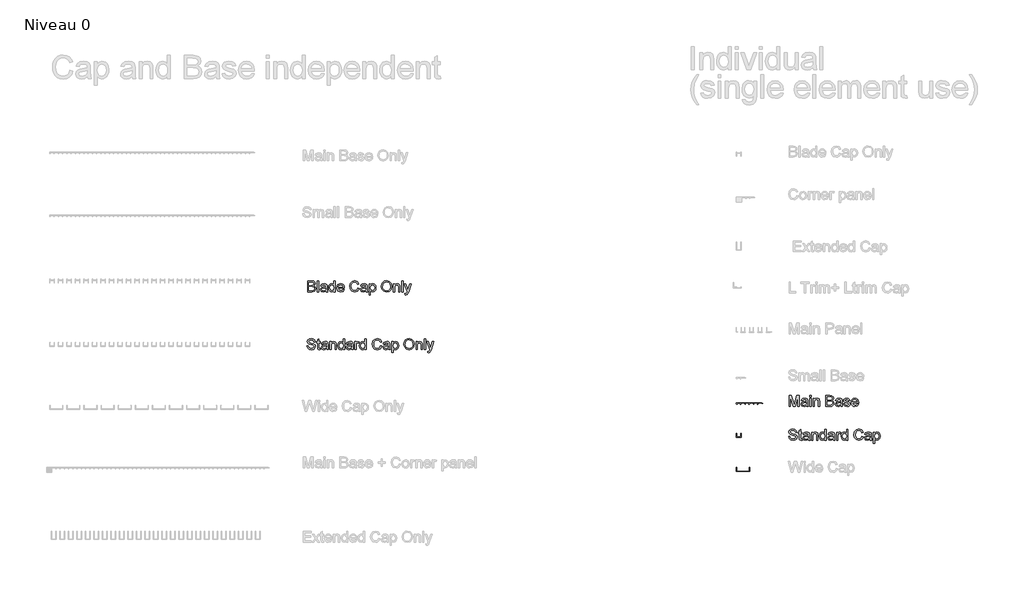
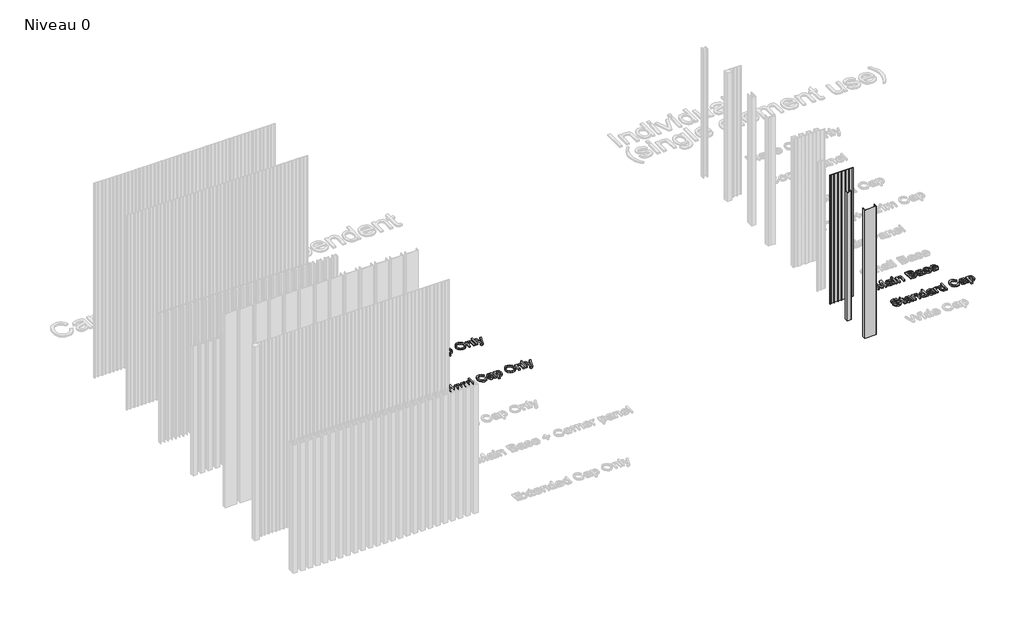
# One storey, part 22 of 25: 7 proxies.
"""IFC4 building model written with IfcOpenShell, lengths in millimetres."""

from ifc_helpers import new_model, si_unit, origin, origin_with_axes, place, context, project, spatial, polyline, outline, extrude, transform, mapped, element, save
from components import a_gen_main_base_a_gen_main_base_1f58835e, a_gen_standard_cap_a_gen_standard_cap_49eb2330, a_gen_wide_cap_a_gen_wide_cap_dd60f3a1

model = new_model("IFC4")

# Units and contexts
model_context = context("Model", 3, world=origin())
ifc_project = project(units=[si_unit("LENGTHUNIT", "METRE", prefix="MILLI")], contexts=[model_context])

# Site, building, storey
site = spatial("IfcSite", under=ifc_project)
building = spatial("IfcBuilding", under=site)
storey = spatial("IfcBuildingStorey", under=building, Name="Niveau 0", Elevation=0.0)

# Proxies
placement = place(None, origin())
element("IfcBuildingElementProxy", 1, Name="70mm Arial", ObjectType="70mm Arial", at=placement, inside=storey, context=model_context, shape_type="SweptSolid", body=[
    extrude(outline(polyline([(8435.9915966, 3665.7930805), (8435.9915966, 3736.1124976), (8462.8249094, 3736.1124976), (8475.9668805, 3734.0437746), (8483.7267381, 3727.6830949), (8486.5336777, 3718.6871538), (8484.1731015, 3710.4723488), (8477.0398697, 3704.2490118), (8485.7010381, 3697.6909021), (8488.7311595, 3686.7549966), (8486.6624364, 3677.3041082), (8481.5378402, 3670.5743202), (8473.8895735, 3667.0034123), (8462.6188954, 3665.7930805), (8435.9915966, 3665.7930805)]), holes=[polyline([(8444.7815238, 3707.5452344), (8460.8334415, 3707.5452344), (8470.2070747, 3708.3006188), (8475.8467057, 3711.5539219), (8477.7437505, 3717.279392), (8475.9754644, 3723.0134461), (8470.9109556, 3726.4040918), (8459.6145258, 3727.3225705), (8444.7815238, 3727.3225705), (8444.7815238, 3707.5452344)]), polyline([(8444.7815238, 3674.5830077), (8462.8077415, 3674.5830077), (8469.3315156, 3674.9263642), (8474.8509718, 3676.8405768), (8478.5077188, 3680.7462574), (8479.9412323, 3686.6691575), (8478.2587853, 3693.5019524), (8472.8080004, 3697.5793112), (8461.9493502, 3698.7553073), (8444.7815238, 3698.7553073), (8444.7815238, 3674.5830077)])]), origin_with_axes(), (0.0, 0.0, 1.0), 10.0),
    extrude(outline(polyline([(8499.7185684, 3665.7930805), (8499.7185684, 3736.1124976), (8508.5084955, 3736.1124976), (8508.5084955, 3665.7930805), (8499.7185684, 3665.7930805)])), origin_with_axes(), (0.0, 0.0, 1.0), 10.0),
    extrude(outline(polyline([(8554.655613, 3672.3855259), (8546.1317872, 3666.4282901), (8536.7152344, 3664.6943396), (8523.9509554, 3668.8661215), (8519.4959045, 3679.5273417), (8521.1783514, 3686.4803114), (8525.5990668, 3691.5276524), (8531.7537325, 3694.4118472), (8539.3590796, 3695.7337698), (8554.6041095, 3698.7553073), (8554.655613, 3700.7124395), (8552.2349495, 3707.2018779), (8542.5179597, 3709.7427162), (8533.6250256, 3708.0516853), (8529.3845725, 3702.05153), (8520.5946453, 3703.1502709), (8524.3973189, 3711.7341841), (8532.0541695, 3716.7643572), (8543.6510363, 3718.5326434), (8554.3036726, 3716.9703712), (8560.3209957, 3713.0475228), (8563.0163445, 3707.0817031), (8563.4455401, 3699.3905169), (8563.4455401, 3688.4546114), (8563.8919036, 3673.1838298), (8565.6430219, 3665.7930805), (8556.8530948, 3665.7930805), (8554.655613, 3672.3855259)]), holes=[polyline([(8554.655613, 3689.9653802), (8540.4749884, 3687.2700314), (8532.9125608, 3685.8451018), (8529.4875794, 3683.5274452), (8528.2858316, 3680.1453834), (8530.9039251, 3675.3898955), (8538.5865275, 3673.4842668), (8547.4794616, 3675.5873255), (8553.2135156, 3680.6775861), (8554.6041095, 3687.4760453), (8554.655613, 3689.9653802)])]), origin_with_axes(), (0.0, 0.0, 1.0), 10.0),
    extrude(outline(polyline([(8607.3951758, 3665.7930805), (8607.3951758, 3674.0851407), (8601.5795746, 3667.0420399), (8593.5407399, 3664.6943396), (8582.6563379, 3668.0935693), (8574.9651517, 3677.5787934), (8572.2354673, 3691.561988), (8574.7505539, 3705.5537666), (8582.2872297, 3715.1849172), (8593.5064042, 3718.5326434), (8601.6096183, 3716.1377316), (8607.3951758, 3709.9143945), (8607.3951758, 3736.1124976), (8616.185103, 3736.1124976), (8616.185103, 3665.7930805), (8607.3951758, 3665.7930805)]), holes=[polyline([(8581.0253944, 3691.5963237), (8584.9911623, 3677.9908212), (8594.3476277, 3673.4842668), (8603.5925023, 3677.7848073), (8607.3951758, 3690.9267784), (8603.523831, 3705.1932422), (8593.9871034, 3709.7427162), (8584.7336449, 3705.3735044), (8581.0253944, 3691.5963237)])]), origin_with_axes(), (0.0, 0.0, 1.0), 10.0),
    extrude(outline(polyline([(8665.5254362, 3681.175453), (8674.143685, 3680.0767121), (8666.0833905, 3668.7287789), (8651.0701263, 3664.6943396), (8640.7565546, 3666.434728), (8632.8207268, 3671.6558933), (8627.7605099, 3680.0187707), (8626.073771, 3691.1842958), (8627.7776778, 3702.7253672), (8632.8893981, 3711.3564919), (8640.717927, 3716.7386055), (8650.5722593, 3718.5326434), (8660.1197168, 3716.7428975), (8667.7486697, 3711.3736597), (8672.7509451, 3702.7597028), (8674.4183703, 3691.2357993), (8674.3668668, 3688.8666393), (8634.8636981, 3688.8666393), (8639.919623, 3677.4500347), (8651.2418046, 3673.4842668), (8659.8600534, 3675.3212242), (8665.5254362, 3681.175453)]), holes=[polyline([(8634.8636981, 3697.6565664), (8665.6284431, 3697.6565664), (8662.1090387, 3705.6224379), (8650.5379237, 3709.7427162), (8639.7136091, 3706.4550775), (8634.8636981, 3697.6565664)])]), origin_with_axes(), (0.0, 0.0, 1.0), 10.0),
    extrude(outline(polyline([(8761.2189007, 3690.7894358), (8770.0088279, 3688.5232827), (8765.9529289, 3678.2805283), (8759.5879572, 3670.7975019), (8751.2272258, 3666.2201302), (8741.1840473, 3664.6943396), (8722.8917282, 3669.312485), (8712.1618367, 3682.6862218), (8708.4793379, 3701.4849917), (8712.6425358, 3720.5927825), (8724.4797522, 3732.9793693), (8741.3728934, 3737.2112385), (8758.9784994, 3731.7347019), (8768.910087, 3716.3179938), (8760.1201599, 3714.2235189), (8752.9096728, 3725.0306657), (8741.0295369, 3728.4213114), (8727.2781079, 3724.6615574), (8719.5096664, 3714.5668755), (8717.2692651, 3701.5021595), (8719.9216942, 3686.3601366), (8728.1794188, 3676.6860664), (8740.3084881, 3673.4842668), (8753.7594802, 3677.8448947), (8761.2189007, 3690.7894358)])), origin_with_axes(), (0.0, 0.0, 1.0), 10.0),
    extrude(outline(polyline([(8813.9584636, 3672.3855259), (8805.4346377, 3666.4282901), (8796.0180849, 3664.6943396), (8783.253806, 3668.8661215), (8778.798755, 3679.5273417), (8780.481202, 3686.4803114), (8784.9019173, 3691.5276524), (8791.0565831, 3694.4118472), (8798.6619302, 3695.7337698), (8813.9069601, 3698.7553073), (8813.9584636, 3700.7124395), (8811.5378, 3707.2018779), (8801.8208103, 3709.7427162), (8792.9278762, 3708.0516853), (8788.6874231, 3702.05153), (8779.8974959, 3703.1502709), (8783.7001695, 3711.7341841), (8791.3570201, 3716.7643572), (8802.9538868, 3718.5326434), (8813.6065231, 3716.9703712), (8819.6238463, 3713.0475228), (8822.3191951, 3707.0817031), (8822.7483907, 3699.3905169), (8822.7483907, 3688.4546114), (8823.1947542, 3673.1838298), (8824.9458725, 3665.7930805), (8816.1559454, 3665.7930805), (8813.9584636, 3672.3855259)]), holes=[polyline([(8813.9584636, 3689.9653802), (8799.7778389, 3687.2700314), (8792.2154114, 3685.8451018), (8788.79043, 3683.5274452), (8787.5886822, 3680.1453834), (8790.2067757, 3675.3898955), (8797.889378, 3673.4842668), (8806.7823121, 3675.5873255), (8812.5163662, 3680.6775861), (8813.9069601, 3687.4760453), (8813.9584636, 3689.9653802)])]), origin_with_axes(), (0.0, 0.0, 1.0), 10.0),
    extrude(outline(polyline([(8834.8345405, 3646.0157445), (8834.8345405, 3717.4339025), (8843.6244677, 3717.4339025), (8843.6244677, 3708.8156536), (8849.7018782, 3716.1033959), (8857.9080993, 3718.5326434), (8869.0500186, 3715.1334137), (8876.329177, 3705.5537666), (8878.7841762, 3692.0083515), (8876.0115722, 3677.7676395), (8867.9598616, 3668.0678175), (8856.843694, 3664.6943396), (8849.1954273, 3666.9519088), (8843.6244677, 3672.6602111), (8843.6244677, 3646.0157445), (8834.8345405, 3646.0157445)]), holes=[polyline([(8843.6244677, 3691.2014637), (8847.4271412, 3677.810559), (8856.6548479, 3673.4842668), (8866.0714007, 3677.9650695), (8869.9942491, 3691.8538411), (8866.1658238, 3705.2790813), (8857.0153723, 3709.7427162), (8847.6846586, 3704.9958122), (8843.6244677, 3691.2014637)])]), origin_with_axes(), (0.0, 0.0, 1.0), 10.0),
    extrude(outline(polyline([(8913.9438848, 3700.0257265), (8916.2872931, 3715.5754853), (8923.317518, 3727.3397383), (8934.0517015, 3734.7433635), (8947.5069855, 3737.2112385), (8965.0010006, 3732.5759254), (8976.8811365, 3719.6485521), (8980.9670792, 3700.8326143), (8976.6665387, 3681.7591591), (8964.4773819, 3669.0206319), (8947.455482, 3664.6943396), (8929.7726208, 3669.4755793), (8917.9611562, 3682.5231274), (8913.9438848, 3700.0257265)]), holes=[polyline([(8922.7338119, 3699.9398873), (8924.4913681, 3688.9396025), (8929.7640368, 3680.5574113), (8937.6891347, 3675.2525529), (8947.4039785, 3673.4842668), (8957.2604569, 3675.2697207), (8965.1984306, 3680.6260826), (8970.4324717, 3689.2657912), (8972.1771521, 3700.9012856), (8969.1899503, 3715.408099), (8960.4601105, 3725.0134978), (8947.5584889, 3728.4213114), (8938.1033085, 3726.779638), (8930.0644738, 3721.8546178), (8924.5664774, 3713.0925884), (8922.7338119, 3699.9398873)])]), origin_with_axes(), (0.0, 0.0, 1.0), 10.0),
    extrude(outline(polyline([(8991.9544881, 3665.7930805), (8991.9544881, 3717.4339025), (9000.7444153, 3717.4339025), (9000.7444153, 3710.2234154), (9007.4656193, 3716.4553364), (9016.6418225, 3718.5326434), (9024.9424666, 3716.8587803), (9030.6078494, 3712.4638167), (9033.2431107, 3706.0001301), (9033.706642, 3697.502056), (9033.706642, 3665.7930805), (9024.9167149, 3665.7930805), (9024.9167149, 3696.3174759), (9023.9038131, 3704.0945013), (9020.3243213, 3708.2061958), (9014.2898303, 3709.7427162), (9004.7531027, 3706.2919831), (9000.7444153, 3693.1929315), (9000.7444153, 3665.7930805), (8991.9544881, 3665.7930805)])), origin_with_axes(), (0.0, 0.0, 1.0), 10.0),
    extrude(outline(polyline([(9045.7927918, 3665.7930805), (9045.7927918, 3736.1124976), (9054.582719, 3736.1124976), (9054.582719, 3665.7930805), (9045.7927918, 3665.7930805)])), origin_with_axes(), (0.0, 0.0, 1.0), 10.0),
    extrude(outline(polyline([(9067.7676097, 3646.0157445), (9066.6688688, 3654.4794829), (9071.1325037, 3653.7069307), (9075.3042855, 3654.6769129), (9077.8622916, 3657.3808456), (9080.2657873, 3663.8531161), (9080.9525004, 3665.9819266), (9062.2739052, 3717.4339025), (9071.5445315, 3717.4339025), (9081.4503674, 3688.7636323), (9084.9011005, 3677.2955242), (9088.3518336, 3687.4245419), (9098.5323547, 3717.4339025), (9107.7343096, 3717.4339025), (9089.7595954, 3664.556997), (9085.0899466, 3653.088889), (9079.9911021, 3646.8913036), (9073.1411394, 3644.9170036), (9067.7676097, 3646.0157445)])), origin_with_axes(), (0.0, 0.0, 1.0), 10.0),
])
element("IfcBuildingElementProxy", 2, Name="70mm Arial", ObjectType="70mm Arial", at=placement, inside=storey, context=model_context, shape_type="SweptSolid", body=[
    extrude(outline(polyline([(8432.695374, 3315.4461886), (8441.4853011, 3315.4461886), (8444.3179925, 3306.6476776), (8451.2366265, 3301.0853018), (8461.777672, 3298.9650753), (8470.9624591, 3300.570267), (8476.8939431, 3304.9823984), (8478.8424914, 3310.8795468), (8477.3832262, 3316.3646674), (8471.4088226, 3320.356187), (8458.610208, 3323.7124971), (8444.8330273, 3328.0473732), (8437.3564388, 3334.5883151), (8434.8928557, 3343.3267388), (8437.9401449, 3353.2754942), (8446.8416629, 3360.2971352), (8459.8720432, 3362.692047), (8473.7779826, 3360.1855443), (8483.0486089, 3352.8205468), (8486.5336777, 3341.8159701), (8477.7437505, 3341.8159701), (8472.7650809, 3350.8462468), (8460.2153997, 3353.9021199), (8447.631383, 3350.8805824), (8443.6827829, 3343.5842562), (8446.4811386, 3337.4896778), (8460.8334415, 3332.5796794), (8476.3874923, 3328.167548), (8484.8941503, 3321.0429001), (8487.6324186, 3311.1027285), (8484.4821224, 3300.5874349), (8475.4175101, 3292.9134164), (8462.1210285, 3290.1751481), (8446.4210512, 3293.1280143), (8436.4894636, 3302.0209484), (8432.695374, 3315.4461886)])), origin_with_axes(), (0.0, 0.0, 1.0), 10.0),
    extrude(outline(polyline([(8518.3971636, 3298.6045509), (8519.4959045, 3291.0163716), (8512.9206269, 3290.1751481), (8505.5556294, 3291.6344134), (8501.8817145, 3295.4628387), (8500.8173093, 3305.4373458), (8500.8173093, 3334.1247838), (8494.2248639, 3334.1247838), (8494.2248639, 3342.9147109), (8500.8173093, 3342.9147109), (8500.8173093, 3355.4643921), (8509.6072364, 3360.6319078), (8509.6072364, 3342.9147109), (8518.3971636, 3342.9147109), (8518.3971636, 3334.1247838), (8509.6072364, 3334.1247838), (8509.6072364, 3305.6948632), (8510.0707677, 3301.162557), (8511.5729525, 3299.5573653), (8514.5687383, 3298.9650753), (8518.3971636, 3298.6045509)])), origin_with_axes(), (0.0, 0.0, 1.0), 10.0),
    extrude(outline(polyline([(8560.1493175, 3297.8663344), (8551.6254916, 3291.9090986), (8542.2089388, 3290.1751481), (8529.4446599, 3294.3469299), (8524.9896089, 3305.0081502), (8526.6720559, 3311.9611199), (8531.0927712, 3317.0084608), (8537.247437, 3319.8926557), (8544.8527841, 3321.2145783), (8560.097814, 3324.2361158), (8560.1493175, 3326.193248), (8557.7286539, 3332.6826864), (8548.0116642, 3335.2235247), (8539.1187301, 3333.5324938), (8534.8782769, 3327.5323385), (8526.0883498, 3328.6310793), (8529.8910234, 3337.2149926), (8537.547874, 3342.2451657), (8549.1447407, 3344.0134518), (8559.797377, 3342.4511796), (8565.8147002, 3338.5283313), (8568.5100489, 3332.5625116), (8568.9392446, 3324.8713254), (8568.9392446, 3313.9354199), (8569.3856081, 3298.6646383), (8571.1367264, 3291.273889), (8562.3467992, 3291.273889), (8560.1493175, 3297.8663344)]), holes=[polyline([(8560.1493175, 3315.4461886), (8545.9686928, 3312.7508399), (8538.4062653, 3311.3259103), (8534.9812839, 3309.0082537), (8533.7795361, 3305.6261919), (8536.3976296, 3300.870704), (8544.0802319, 3298.9650753), (8552.973166, 3301.068134), (8558.70722, 3306.1583945), (8560.097814, 3312.9568538), (8560.1493175, 3315.4461886)])]), origin_with_axes(), (0.0, 0.0, 1.0), 10.0),
    extrude(outline(polyline([(8581.0253944, 3291.273889), (8581.0253944, 3342.9147109), (8589.8153216, 3342.9147109), (8589.8153216, 3335.7042238), (8596.5365256, 3341.9361448), (8605.7127288, 3344.0134518), (8614.0133729, 3342.3395888), (8619.6787557, 3337.9446252), (8622.314017, 3331.4809385), (8622.7775483, 3322.9828644), (8622.7775483, 3291.273889), (8613.9876212, 3291.273889), (8613.9876212, 3321.7982844), (8612.9747194, 3329.5753098), (8609.3952276, 3333.6870042), (8603.3607366, 3335.2235247), (8593.824009, 3331.7727916), (8589.8153216, 3318.67374), (8589.8153216, 3291.273889), (8581.0253944, 3291.273889)])), origin_with_axes(), (0.0, 0.0, 1.0), 10.0),
    extrude(outline(polyline([(8666.727184, 3291.273889), (8666.727184, 3299.5659492), (8660.9115828, 3292.5228484), (8652.8727481, 3290.1751481), (8641.9883461, 3293.5743777), (8634.2971599, 3303.0596019), (8631.5674755, 3317.0427965), (8634.082562, 3331.034575), (8641.6192378, 3340.6657257), (8652.8384124, 3344.0134518), (8660.9416265, 3341.61854), (8666.727184, 3335.395203), (8666.727184, 3361.5933061), (8675.5171112, 3361.5933061), (8675.5171112, 3291.273889), (8666.727184, 3291.273889)]), holes=[polyline([(8640.3574026, 3317.0771321), (8644.3231705, 3303.4716297), (8653.6796359, 3298.9650753), (8662.9245105, 3303.2656158), (8666.727184, 3316.4075869), (8662.8558392, 3330.6740507), (8653.3191116, 3335.2235247), (8644.0656531, 3330.8543129), (8640.3574026, 3317.0771321)])]), origin_with_axes(), (0.0, 0.0, 1.0), 10.0),
    extrude(outline(polyline([(8721.6642286, 3297.8663344), (8713.1404028, 3291.9090986), (8703.72385, 3290.1751481), (8690.959571, 3294.3469299), (8686.5045201, 3305.0081502), (8688.1869671, 3311.9611199), (8692.6076824, 3317.0084608), (8698.7623482, 3319.8926557), (8706.3676953, 3321.2145783), (8721.6127251, 3324.2361158), (8721.6642286, 3326.193248), (8719.2435651, 3332.6826864), (8709.5265753, 3335.2235247), (8700.6336412, 3333.5324938), (8696.3931881, 3327.5323385), (8687.603261, 3328.6310793), (8691.4059345, 3337.2149926), (8699.0627851, 3342.2451657), (8710.6596519, 3344.0134518), (8721.3122882, 3342.4511796), (8727.3296114, 3338.5283313), (8730.0249601, 3332.5625116), (8730.4541558, 3324.8713254), (8730.4541558, 3313.9354199), (8730.9005193, 3298.6646383), (8732.6516375, 3291.273889), (8723.8617104, 3291.273889), (8721.6642286, 3297.8663344)]), holes=[polyline([(8721.6642286, 3315.4461886), (8707.483604, 3312.7508399), (8699.9211764, 3311.3259103), (8696.4961951, 3309.0082537), (8695.2944472, 3305.6261919), (8697.9125407, 3300.870704), (8705.5951431, 3298.9650753), (8714.4880772, 3301.068134), (8720.2221312, 3306.1583945), (8721.6127251, 3312.9568538), (8721.6642286, 3315.4461886)])]), origin_with_axes(), (0.0, 0.0, 1.0), 10.0),
    extrude(outline(polyline([(8742.5403056, 3291.273889), (8742.5403056, 3342.9147109), (8750.2314918, 3342.9147109), (8750.2314918, 3335.2750282), (8755.6908606, 3342.313837), (8761.1845651, 3344.0134518), (8770.0088279, 3341.3009353), (8767.0731296, 3333.4209029), (8760.892712, 3335.2235247), (8755.9226263, 3333.4895742), (8752.7551623, 3328.6825828), (8751.3302327, 3318.4162226), (8751.3302327, 3291.273889), (8742.5403056, 3291.273889)])), origin_with_axes(), (0.0, 0.0, 1.0), 10.0),
    extrude(outline(polyline([(8807.3660182, 3291.273889), (8807.3660182, 3299.5659492), (8801.550417, 3292.5228484), (8793.5115823, 3290.1751481), (8782.6271803, 3293.5743777), (8774.9359941, 3303.0596019), (8772.2063097, 3317.0427965), (8774.7213962, 3331.034575), (8782.2580721, 3340.6657257), (8793.4772466, 3344.0134518), (8801.5804607, 3341.61854), (8807.3660182, 3335.395203), (8807.3660182, 3361.5933061), (8816.1559454, 3361.5933061), (8816.1559454, 3291.273889), (8807.3660182, 3291.273889)]), holes=[polyline([(8780.9962368, 3317.0771321), (8784.9620047, 3303.4716297), (8794.3184701, 3298.9650753), (8803.5633447, 3303.2656158), (8807.3660182, 3316.4075869), (8803.4946734, 3330.6740507), (8793.9579458, 3335.2235247), (8784.7044873, 3330.8543129), (8780.9962368, 3317.0771321)])]), origin_with_axes(), (0.0, 0.0, 1.0), 10.0),
    extrude(outline(polyline([(8907.3514394, 3316.2702443), (8916.1413666, 3314.0040912), (8912.0854676, 3303.7613368), (8905.7204959, 3296.2783104), (8897.3597644, 3291.7009387), (8887.316586, 3290.1751481), (8869.0242669, 3294.7932934), (8858.2943754, 3308.1670302), (8854.6118766, 3326.9658002), (8858.7750745, 3346.073591), (8870.6122908, 3358.4601778), (8887.5054321, 3362.692047), (8905.1110381, 3357.2155104), (8915.0426257, 3341.7988022), (8906.2526985, 3339.7043274), (8899.0422114, 3350.5114741), (8887.1620755, 3353.9021199), (8873.4106465, 3350.1423659), (8865.6422051, 3340.0476839), (8863.4018037, 3326.982968), (8866.0542329, 3311.8409451), (8874.3119574, 3302.1668749), (8886.4410268, 3298.9650753), (8899.8920188, 3303.3257032), (8907.3514394, 3316.2702443)])), origin_with_axes(), (0.0, 0.0, 1.0), 10.0),
    extrude(outline(polyline([(8960.0910022, 3297.8663344), (8951.5671764, 3291.9090986), (8942.1506236, 3290.1751481), (8929.3863447, 3294.3469299), (8924.9312937, 3305.0081502), (8926.6137407, 3311.9611199), (8931.034456, 3317.0084608), (8937.1891218, 3319.8926557), (8944.7944689, 3321.2145783), (8960.0394988, 3324.2361158), (8960.0910022, 3326.193248), (8957.6703387, 3332.6826864), (8947.953349, 3335.2235247), (8939.0604149, 3333.5324938), (8934.8199617, 3327.5323385), (8926.0300346, 3328.6310793), (8929.8327081, 3337.2149926), (8937.4895587, 3342.2451657), (8949.0864255, 3344.0134518), (8959.7390618, 3342.4511796), (8965.756385, 3338.5283313), (8968.4517337, 3332.5625116), (8968.8809294, 3324.8713254), (8968.8809294, 3313.9354199), (8969.3272929, 3298.6646383), (8971.0784112, 3291.273889), (8962.288484, 3291.273889), (8960.0910022, 3297.8663344)]), holes=[polyline([(8960.0910022, 3315.4461886), (8945.9103776, 3312.7508399), (8938.3479501, 3311.3259103), (8934.9229687, 3309.0082537), (8933.7212208, 3305.6261919), (8936.3393144, 3300.870704), (8944.0219167, 3298.9650753), (8952.9148508, 3301.068134), (8958.6489048, 3306.1583945), (8960.0394988, 3312.9568538), (8960.0910022, 3315.4461886)])]), origin_with_axes(), (0.0, 0.0, 1.0), 10.0),
    extrude(outline(polyline([(8980.9670792, 3271.4965529), (8980.9670792, 3342.9147109), (8989.7570063, 3342.9147109), (8989.7570063, 3334.2964621), (8995.8344169, 3341.5842044), (9004.0406379, 3344.0134518), (9015.1825573, 3340.6142222), (9022.4617157, 3331.034575), (9024.9167149, 3317.48916), (9022.1441109, 3303.2484479), (9014.0924003, 3293.548626), (9002.9762327, 3290.1751481), (8995.327966, 3292.4327173), (8989.7570063, 3298.1410196), (8989.7570063, 3271.4965529), (8980.9670792, 3271.4965529)]), holes=[polyline([(8989.7570063, 3316.6822721), (8993.5596799, 3303.2913675), (9002.7873866, 3298.9650753), (9012.2039394, 3303.445878), (9016.1267878, 3317.3346495), (9012.2983625, 3330.7598898), (9003.147911, 3335.2235247), (8993.8171973, 3330.4766207), (8989.7570063, 3316.6822721)])]), origin_with_axes(), (0.0, 0.0, 1.0), 10.0),
    extrude(outline(polyline([(9060.0764234, 3325.5065349), (9062.4198318, 3341.0562937), (9069.4500567, 3352.8205468), (9080.1842402, 3360.224172), (9093.6395241, 3362.692047), (9111.1335393, 3358.0567339), (9123.0136752, 3345.1293606), (9127.0996179, 3326.3134228), (9122.7990773, 3307.2399676), (9110.6099206, 3294.5014404), (9093.5880207, 3290.1751481), (9075.9051594, 3294.9563878), (9064.0936948, 3308.0039359), (9060.0764234, 3325.5065349)]), holes=[polyline([(9068.8663506, 3325.4206958), (9070.6239068, 3314.420411), (9075.8965755, 3306.0382197), (9083.8216734, 3300.7333614), (9093.5365172, 3298.9650753), (9103.3929955, 3300.7505292), (9111.3309693, 3306.1068911), (9116.5650104, 3314.7465997), (9118.3096907, 3326.3820941), (9115.3224889, 3340.8889074), (9106.5926492, 3350.4943063), (9093.6910276, 3353.9021199), (9084.2358472, 3352.2604465), (9076.1970125, 3347.3354263), (9070.6990161, 3338.5733968), (9068.8663506, 3325.4206958)])]), origin_with_axes(), (0.0, 0.0, 1.0), 10.0),
    extrude(outline(polyline([(9138.0870268, 3291.273889), (9138.0870268, 3342.9147109), (9146.8769539, 3342.9147109), (9146.8769539, 3335.7042238), (9153.598158, 3341.9361448), (9162.7743612, 3344.0134518), (9171.0750053, 3342.3395888), (9176.740388, 3337.9446252), (9179.3756494, 3331.4809385), (9179.8391807, 3322.9828644), (9179.8391807, 3291.273889), (9171.0492536, 3291.273889), (9171.0492536, 3321.7982844), (9170.0363518, 3329.5753098), (9166.45686, 3333.6870042), (9160.422369, 3335.2235247), (9150.8856414, 3331.7727916), (9146.8769539, 3318.67374), (9146.8769539, 3291.273889), (9138.0870268, 3291.273889)])), origin_with_axes(), (0.0, 0.0, 1.0), 10.0),
    extrude(outline(polyline([(9191.9253305, 3291.273889), (9191.9253305, 3361.5933061), (9200.7152577, 3361.5933061), (9200.7152577, 3291.273889), (9191.9253305, 3291.273889)])), origin_with_axes(), (0.0, 0.0, 1.0), 10.0),
    extrude(outline(polyline([(9213.9001484, 3271.4965529), (9212.8014075, 3279.9602914), (9217.2650423, 3279.1877392), (9221.4368242, 3280.1577214), (9223.9948303, 3282.8616541), (9226.398326, 3289.3339246), (9227.0850391, 3291.4627351), (9208.4064439, 3342.9147109), (9217.6770702, 3342.9147109), (9227.582906, 3314.2444408), (9231.0336391, 3302.7763327), (9234.4843723, 3312.9053503), (9244.6648933, 3342.9147109), (9253.8668483, 3342.9147109), (9235.892134, 3290.0378055), (9231.2224852, 3278.5696974), (9226.1236408, 3272.3721121), (9219.273678, 3270.3978121), (9213.9001484, 3271.4965529)])), origin_with_axes(), (0.0, 0.0, 1.0), 10.0),
])
element("IfcBuildingElementProxy", 3, Name="70mm Arial", ObjectType="70mm Arial", at=placement, inside=storey, context=model_context, shape_type="SweptSolid", body=[
    extrude(outline(polyline([(11552.3839824, 2923.7188081), (11552.3839824, 2994.0382253), (11567.5088375, 2994.0382253), (11581.8954761, 2944.4747103), (11584.7968387, 2934.122511), (11587.938551, 2945.3331016), (11602.08484, 2994.0382253), (11617.2096951, 2994.0382253), (11617.2096951, 2923.7188081), (11608.4197679, 2923.7188081), (11608.4197679, 2985.2482981), (11590.7540745, 2923.7188081), (11578.839603, 2923.7188081), (11561.1739096, 2985.2482981), (11561.1739096, 2923.7188081), (11552.3839824, 2923.7188081)])), origin_with_axes(), (0.0, 0.0, 1.0), 10.0),
    extrude(outline(polyline([(11664.4555534, 2930.3112535), (11655.9317276, 2924.3540177), (11646.5151748, 2922.6200673), (11633.7508958, 2926.7918491), (11629.2958449, 2937.4530693), (11630.9782919, 2944.406039), (11635.3990072, 2949.45338), (11641.553673, 2952.3375748), (11649.1590201, 2953.6594975), (11664.40405, 2956.6810349), (11664.4555534, 2958.6381671), (11662.0348899, 2965.1276055), (11652.3179001, 2967.6684438), (11643.424966, 2965.9774129), (11639.1845129, 2959.9772576), (11630.3945858, 2961.0759985), (11634.1972593, 2969.6599117), (11641.8541099, 2974.6900849), (11653.4509767, 2976.458371), (11664.103613, 2974.8960988), (11670.1209362, 2970.9732504), (11672.8162849, 2965.0074307), (11673.2454806, 2957.3162445), (11673.2454806, 2946.380339), (11673.6918441, 2931.1095574), (11675.4429624, 2923.7188081), (11666.6530352, 2923.7188081), (11664.4555534, 2930.3112535)]), holes=[polyline([(11664.4555534, 2947.8911078), (11650.2749288, 2945.195759), (11642.7125012, 2943.7708294), (11639.2875199, 2941.4531729), (11638.085772, 2938.0711111), (11640.7038656, 2933.3156231), (11648.3864679, 2931.4099944), (11657.279402, 2933.5130531), (11663.013456, 2938.6033137), (11664.40405, 2945.4017729), (11664.4555534, 2947.8911078)])]), origin_with_axes(), (0.0, 0.0, 1.0), 10.0),
    extrude(outline(polyline([(11685.3316304, 2923.7188081), (11685.3316304, 2975.3596301), (11694.1215575, 2975.3596301), (11694.1215575, 2923.7188081), (11685.3316304, 2923.7188081)])), origin_with_axes(), (0.0, 0.0, 1.0), 10.0),
    extrude(outline(polyline([(11685.3316304, 2985.2482981), (11685.3316304, 2994.0382253), (11694.1215575, 2994.0382253), (11694.1215575, 2985.2482981), (11685.3316304, 2985.2482981)])), origin_with_axes(), (0.0, 0.0, 1.0), 10.0),
    extrude(outline(polyline([(11707.3064482, 2923.7188081), (11707.3064482, 2975.3596301), (11716.0963754, 2975.3596301), (11716.0963754, 2968.149143), (11722.8175794, 2974.381064), (11731.9937827, 2976.458371), (11740.2944267, 2974.7845079), (11745.9598095, 2970.3895443), (11748.5950708, 2963.9258577), (11749.0586021, 2955.4277836), (11749.0586021, 2923.7188081), (11740.268675, 2923.7188081), (11740.268675, 2954.2432036), (11739.2557732, 2962.0202289), (11735.6762814, 2966.1319234), (11729.6417904, 2967.6684438), (11720.1050628, 2964.2177107), (11716.0963754, 2951.1186591), (11716.0963754, 2923.7188081), (11707.3064482, 2923.7188081)])), origin_with_axes(), (0.0, 0.0, 1.0), 10.0),
    extrude(outline(polyline([(11789.7120152, 2923.7188081), (11789.7120152, 2994.0382253), (11816.5453279, 2994.0382253), (11829.687299, 2991.9695022), (11837.4471566, 2985.6088225), (11840.2540962, 2976.6128814), (11837.8935201, 2968.3980765), (11830.7602882, 2962.1747394), (11839.4214566, 2955.6166297), (11842.451578, 2944.6807242), (11840.3828549, 2935.2298358), (11835.2582587, 2928.5000478), (11827.609992, 2924.9291399), (11816.339314, 2923.7188081), (11789.7120152, 2923.7188081)]), holes=[polyline([(11798.5019423, 2965.4709621), (11814.55386, 2965.4709621), (11823.9274933, 2966.2263464), (11829.5671242, 2969.4796495), (11831.4641691, 2975.2051196), (11829.6958829, 2980.9391737), (11824.6313741, 2984.3298194), (11813.3349443, 2985.2482981), (11798.5019423, 2985.2482981), (11798.5019423, 2965.4709621)]), polyline([(11798.5019423, 2932.5087353), (11816.5281601, 2932.5087353), (11823.0519341, 2932.8520918), (11828.5713903, 2934.7663045), (11832.2281373, 2938.671985), (11833.6616508, 2944.5948851), (11831.9792039, 2951.42768), (11826.528419, 2955.5050388), (11815.6697687, 2956.6810349), (11798.5019423, 2956.6810349), (11798.5019423, 2932.5087353)])]), origin_with_axes(), (0.0, 0.0, 1.0), 10.0),
    extrude(outline(polyline([(11886.4012137, 2930.3112535), (11877.8773878, 2924.3540177), (11868.460835, 2922.6200673), (11855.6965561, 2926.7918491), (11851.2415051, 2937.4530693), (11852.9239521, 2944.406039), (11857.3446674, 2949.45338), (11863.4993332, 2952.3375748), (11871.1046803, 2953.6594975), (11886.3497102, 2956.6810349), (11886.4012137, 2958.6381671), (11883.9805501, 2965.1276055), (11874.2635604, 2967.6684438), (11865.3706263, 2965.9774129), (11861.1301732, 2959.9772576), (11852.340246, 2961.0759985), (11856.1429196, 2969.6599117), (11863.7997702, 2974.6900849), (11875.3966369, 2976.458371), (11886.0492732, 2974.8960988), (11892.0665964, 2970.9732504), (11894.7619452, 2965.0074307), (11895.1911408, 2957.3162445), (11895.1911408, 2946.380339), (11895.6375043, 2931.1095574), (11897.3886226, 2923.7188081), (11888.5986955, 2923.7188081), (11886.4012137, 2930.3112535)]), holes=[polyline([(11886.4012137, 2947.8911078), (11872.220589, 2945.195759), (11864.6581615, 2943.7708294), (11861.2331801, 2941.4531729), (11860.0314323, 2938.0711111), (11862.6495258, 2933.3156231), (11870.3321281, 2931.4099944), (11879.2250622, 2933.5130531), (11884.9591163, 2938.6033137), (11886.3497102, 2945.4017729), (11886.4012137, 2947.8911078)])]), origin_with_axes(), (0.0, 0.0, 1.0), 10.0),
    extrude(outline(polyline([(11903.981068, 2939.1011806), (11912.7709951, 2940.1999215), (11916.83977, 2933.6761475), (11926.1618997, 2931.4099944), (11935.1235051, 2933.4873014), (11938.0420356, 2938.3629641), (11935.1063373, 2942.3115642), (11926.0588928, 2944.8180668), (11912.8224986, 2949.1186074), (11907.045525, 2954.1401966), (11905.0798088, 2961.2305089), (11906.6592489, 2967.7800347), (11910.9683733, 2972.7844561), (11916.5565008, 2975.3853818), (11924.1189284, 2976.458371), (11934.8144842, 2974.7330044), (11941.6129435, 2970.0633556), (11944.634481, 2962.1747394), (11935.8445538, 2961.0759985), (11932.5397472, 2965.9259095), (11924.8056414, 2967.6684438), (11916.3934065, 2966.0031647), (11913.869736, 2962.1232359), (11914.9169734, 2959.5652298), (11918.1960282, 2957.6252654), (11925.7670397, 2955.7539723), (11938.6686613, 2951.6165261), (11944.6602327, 2946.9297095), (11946.8319627, 2939.2900267), (11944.2825405, 2930.8777918), (11936.9261269, 2924.7746295), (11926.0417249, 2922.6200673), (11910.7108559, 2926.7746813), (11903.981068, 2939.1011806)])), origin_with_axes(), (0.0, 0.0, 1.0), 10.0),
    extrude(outline(polyline([(11992.8760733, 2939.1011806), (12001.4943221, 2938.0024397), (11993.4340276, 2926.6545065), (11978.4207634, 2922.6200673), (11968.1071917, 2924.3604557), (11960.1713639, 2929.5816209), (11955.111147, 2937.9444983), (11953.4244081, 2949.1100235), (11955.1283149, 2960.6510948), (11960.2400352, 2969.2822195), (11968.0685641, 2974.6643331), (11977.9228964, 2976.458371), (11987.4703539, 2974.6686251), (11995.0993068, 2969.2993873), (12000.1015822, 2960.6854304), (12001.7690074, 2949.1615269), (12001.7175039, 2946.7923669), (11962.2143352, 2946.7923669), (11967.2702601, 2935.3757623), (11978.5924417, 2931.4099944), (11987.2106905, 2933.2469518), (11992.8760733, 2939.1011806)]), holes=[polyline([(11962.2143352, 2955.582294), (11992.9790802, 2955.582294), (11989.4596758, 2963.5481655), (11977.8885608, 2967.6684438), (11967.0642462, 2964.3808051), (11962.2143352, 2955.582294)])]), origin_with_axes(), (0.0, 0.0, 1.0), 10.0),
])
element("IfcBuildingElementProxy", 4, Name="70mm Arial", ObjectType="70mm Arial", at=placement, inside=storey, context=model_context, shape_type="SweptSolid", body=[
    extrude(outline(polyline([(11549.0877597, 2729.0634774), (11557.8776869, 2729.0634774), (11560.7103783, 2720.2649664), (11567.6290123, 2714.7025906), (11578.1700577, 2712.582364), (11587.3548449, 2714.1875558), (11593.2863289, 2718.5996872), (11595.2348772, 2724.4968356), (11593.775612, 2729.9819561), (11587.8012084, 2733.9734758), (11575.0025938, 2737.3297859), (11561.225413, 2741.664662), (11553.7488246, 2748.2056039), (11551.2852415, 2756.9440276), (11554.3325307, 2766.892783), (11563.2340487, 2773.914424), (11576.264429, 2776.3093358), (11590.1703684, 2773.8028331), (11599.4409947, 2766.4378356), (11602.9260635, 2755.4332588), (11594.1361363, 2755.4332588), (11589.1574667, 2764.4635355), (11576.6077855, 2767.5194087), (11564.0237688, 2764.4978712), (11560.0751687, 2757.201545), (11562.8735244, 2751.1069666), (11577.2258273, 2746.1969682), (11592.779878, 2741.7848368), (11601.286536, 2734.6601888), (11604.0248044, 2724.7200173), (11600.8745082, 2714.2047236), (11591.8098958, 2706.5307052), (11578.5134143, 2703.7924369), (11562.813437, 2706.745303), (11552.8818494, 2715.6382371), (11549.0877597, 2729.0634774)])), origin_with_axes(), (0.0, 0.0, 1.0), 10.0),
    extrude(outline(polyline([(11634.7895493, 2712.2218397), (11635.8882902, 2704.6336604), (11629.3130127, 2703.7924369), (11621.9480152, 2705.2517021), (11618.2741003, 2709.0801274), (11617.2096951, 2719.0546346), (11617.2096951, 2747.7420726), (11610.6172497, 2747.7420726), (11610.6172497, 2756.5319997), (11617.2096951, 2756.5319997), (11617.2096951, 2769.0816809), (11625.9996222, 2774.2491966), (11625.9996222, 2756.5319997), (11634.7895493, 2756.5319997), (11634.7895493, 2747.7420726), (11625.9996222, 2747.7420726), (11625.9996222, 2719.312152), (11626.4631535, 2714.7798458), (11627.9653383, 2713.1746541), (11630.961124, 2712.582364), (11634.7895493, 2712.2218397)])), origin_with_axes(), (0.0, 0.0, 1.0), 10.0),
    extrude(outline(polyline([(11676.5417033, 2711.4836231), (11668.0178774, 2705.5263874), (11658.6013246, 2703.7924369), (11645.8370457, 2707.9642187), (11641.3819947, 2718.6254389), (11643.0644417, 2725.5784087), (11647.485157, 2730.6257496), (11653.6398228, 2733.5099445), (11661.2451699, 2734.8318671), (11676.4901998, 2737.8534046), (11676.5417033, 2739.8105368), (11674.1210397, 2746.2999752), (11664.40405, 2748.8408135), (11655.5111159, 2747.1497826), (11651.2706627, 2741.1496272), (11642.4807356, 2742.2483681), (11646.2834091, 2750.8322814), (11653.9402597, 2755.8624545), (11665.5371265, 2757.6307406), (11676.1897628, 2756.0684684), (11682.207086, 2752.1456201), (11684.9024347, 2746.1798004), (11685.3316304, 2738.4886141), (11685.3316304, 2727.5527087), (11685.7779939, 2712.2819271), (11687.5291122, 2704.8911778), (11678.739185, 2704.8911778), (11676.5417033, 2711.4836231)]), holes=[polyline([(11676.5417033, 2729.0634774), (11662.3610786, 2726.3681287), (11654.7986511, 2724.9431991), (11651.3736697, 2722.6255425), (11650.1719218, 2719.2434807), (11652.7900154, 2714.4879928), (11660.4726177, 2712.582364), (11669.3655518, 2714.6854228), (11675.0996058, 2719.7756833), (11676.4901998, 2726.5741426), (11676.5417033, 2729.0634774)])]), origin_with_axes(), (0.0, 0.0, 1.0), 10.0),
    extrude(outline(polyline([(11697.4177802, 2704.8911778), (11697.4177802, 2756.5319997), (11706.2077073, 2756.5319997), (11706.2077073, 2749.3215126), (11712.9289114, 2755.5534336), (11722.1051146, 2757.6307406), (11730.4057587, 2755.9568775), (11736.0711414, 2751.561914), (11738.7064028, 2745.0982273), (11739.1699341, 2736.6001532), (11739.1699341, 2704.8911778), (11730.380007, 2704.8911778), (11730.380007, 2735.4155732), (11729.3671052, 2743.1925986), (11725.7876134, 2747.304293), (11719.7531224, 2748.8408135), (11710.2163948, 2745.3900804), (11706.2077073, 2732.2910288), (11706.2077073, 2704.8911778), (11697.4177802, 2704.8911778)])), origin_with_axes(), (0.0, 0.0, 1.0), 10.0),
    extrude(outline(polyline([(11783.1195698, 2704.8911778), (11783.1195698, 2713.183238), (11777.3039686, 2706.1401372), (11769.2651339, 2703.7924369), (11758.3807319, 2707.1916665), (11750.6895457, 2716.6768906), (11747.9598612, 2730.6600853), (11750.4749478, 2744.6518638), (11758.0116236, 2754.2830145), (11769.2307982, 2757.6307406), (11777.3340123, 2755.2358288), (11783.1195698, 2749.0124917), (11783.1195698, 2775.2105949), (11791.9094969, 2775.2105949), (11791.9094969, 2704.8911778), (11783.1195698, 2704.8911778)]), holes=[polyline([(11756.7497884, 2730.6944209), (11760.7155563, 2717.0889185), (11770.0720217, 2712.582364), (11779.3168962, 2716.8829046), (11783.1195698, 2730.0248757), (11779.2482249, 2744.2913395), (11769.7114974, 2748.8408135), (11760.4580389, 2744.4716017), (11756.7497884, 2730.6944209)])]), origin_with_axes(), (0.0, 0.0, 1.0), 10.0),
    extrude(outline(polyline([(11838.0566144, 2711.4836231), (11829.5327886, 2705.5263874), (11820.1162358, 2703.7924369), (11807.3519568, 2707.9642187), (11802.8969059, 2718.6254389), (11804.5793529, 2725.5784087), (11809.0000682, 2730.6257496), (11815.1547339, 2733.5099445), (11822.7600811, 2734.8318671), (11838.0051109, 2737.8534046), (11838.0566144, 2739.8105368), (11835.6359509, 2746.2999752), (11825.9189611, 2748.8408135), (11817.026027, 2747.1497826), (11812.7855739, 2741.1496272), (11803.9956468, 2742.2483681), (11807.7983203, 2750.8322814), (11815.4551709, 2755.8624545), (11827.0520377, 2757.6307406), (11837.704674, 2756.0684684), (11843.7219971, 2752.1456201), (11846.4173459, 2746.1798004), (11846.8465416, 2738.4886141), (11846.8465416, 2727.5527087), (11847.292905, 2712.2819271), (11849.0440233, 2704.8911778), (11840.2540962, 2704.8911778), (11838.0566144, 2711.4836231)]), holes=[polyline([(11838.0566144, 2729.0634774), (11823.8759898, 2726.3681287), (11816.3135622, 2724.9431991), (11812.8885809, 2722.6255425), (11811.686833, 2719.2434807), (11814.3049265, 2714.4879928), (11821.9875289, 2712.582364), (11830.880463, 2714.6854228), (11836.614517, 2719.7756833), (11838.0051109, 2726.5741426), (11838.0566144, 2729.0634774)])]), origin_with_axes(), (0.0, 0.0, 1.0), 10.0),
    extrude(outline(polyline([(11858.9326914, 2704.8911778), (11858.9326914, 2756.5319997), (11866.6238776, 2756.5319997), (11866.6238776, 2748.892317), (11872.0832464, 2755.9311258), (11877.5769509, 2757.6307406), (11886.4012137, 2754.918224), (11883.4655154, 2747.0381917), (11877.2850978, 2748.8408135), (11872.3150121, 2747.106863), (11869.1475481, 2742.2998716), (11867.7226185, 2732.0335114), (11867.7226185, 2704.8911778), (11858.9326914, 2704.8911778)])), origin_with_axes(), (0.0, 0.0, 1.0), 10.0),
    extrude(outline(polyline([(11923.758404, 2704.8911778), (11923.758404, 2713.183238), (11917.9428028, 2706.1401372), (11909.9039681, 2703.7924369), (11899.0195661, 2707.1916665), (11891.3283799, 2716.6768906), (11888.5986955, 2730.6600853), (11891.113782, 2744.6518638), (11898.6504578, 2754.2830145), (11909.8696324, 2757.6307406), (11917.9728465, 2755.2358288), (11923.758404, 2749.0124917), (11923.758404, 2775.2105949), (11932.5483311, 2775.2105949), (11932.5483311, 2704.8911778), (11923.758404, 2704.8911778)]), holes=[polyline([(11897.3886226, 2730.6944209), (11901.3543905, 2717.0889185), (11910.7108559, 2712.582364), (11919.9557305, 2716.8829046), (11923.758404, 2730.0248757), (11919.8870591, 2744.2913395), (11910.3503316, 2748.8408135), (11901.0968731, 2744.4716017), (11897.3886226, 2730.6944209)])]), origin_with_axes(), (0.0, 0.0, 1.0), 10.0),
    extrude(outline(polyline([(12023.7438252, 2729.8875331), (12032.5337523, 2727.62138), (12028.4778533, 2717.3786256), (12022.1128817, 2709.8955992), (12013.7521502, 2705.3182275), (12003.7089717, 2703.7924369), (11985.4166527, 2708.4105822), (11974.6867611, 2721.784319), (11971.0042624, 2740.583089), (11975.1674603, 2759.6908798), (11987.0046766, 2772.0774666), (12003.8978178, 2776.3093358), (12021.5034239, 2770.8327992), (12031.4350115, 2755.416091), (12022.6450843, 2753.3216162), (12015.4345972, 2764.1287629), (12003.5544613, 2767.5194087), (11989.8030323, 2763.7596547), (11982.0345909, 2753.6649727), (11979.7941895, 2740.6002568), (11982.4466187, 2725.4582339), (11990.7043432, 2715.7841637), (12002.8334126, 2712.582364), (12016.2844046, 2716.942992), (12023.7438252, 2729.8875331)])), origin_with_axes(), (0.0, 0.0, 1.0), 10.0),
    extrude(outline(polyline([(12076.483388, 2711.4836231), (12067.9595622, 2705.5263874), (12058.5430094, 2703.7924369), (12045.7787304, 2707.9642187), (12041.3236795, 2718.6254389), (12043.0061265, 2725.5784087), (12047.4268418, 2730.6257496), (12053.5815076, 2733.5099445), (12061.1868547, 2734.8318671), (12076.4318846, 2737.8534046), (12076.483388, 2739.8105368), (12074.0627245, 2746.2999752), (12064.3457347, 2748.8408135), (12055.4528006, 2747.1497826), (12051.2123475, 2741.1496272), (12042.4224204, 2742.2483681), (12046.2250939, 2750.8322814), (12053.8819445, 2755.8624545), (12065.4788113, 2757.6307406), (12076.1314476, 2756.0684684), (12082.1487708, 2752.1456201), (12084.8441195, 2746.1798004), (12085.2733152, 2738.4886141), (12085.2733152, 2727.5527087), (12085.7196787, 2712.2819271), (12087.470797, 2704.8911778), (12078.6808698, 2704.8911778), (12076.483388, 2711.4836231)]), holes=[polyline([(12076.483388, 2729.0634774), (12062.3027634, 2726.3681287), (12054.7403358, 2724.9431991), (12051.3153545, 2722.6255425), (12050.1136066, 2719.2434807), (12052.7317002, 2714.4879928), (12060.4143025, 2712.582364), (12069.3072366, 2714.6854228), (12075.0412906, 2719.7756833), (12076.4318846, 2726.5741426), (12076.483388, 2729.0634774)])]), origin_with_axes(), (0.0, 0.0, 1.0), 10.0),
    extrude(outline(polyline([(12097.359465, 2685.1138417), (12097.359465, 2756.5319997), (12106.1493921, 2756.5319997), (12106.1493921, 2747.9137509), (12112.2268027, 2755.2014932), (12120.4330237, 2757.6307406), (12131.5749431, 2754.231511), (12138.8541015, 2744.6518638), (12141.3091007, 2731.1064488), (12138.5364967, 2716.8657367), (12130.4847861, 2707.1659148), (12119.3686185, 2703.7924369), (12111.7203518, 2706.0500061), (12106.1493921, 2711.7583084), (12106.1493921, 2685.1138417), (12097.359465, 2685.1138417)]), holes=[polyline([(12106.1493921, 2730.2995609), (12109.9520657, 2716.9086563), (12119.1797724, 2712.582364), (12128.5963252, 2717.0631667), (12132.5191735, 2730.9519383), (12128.6907482, 2744.3771786), (12119.5402968, 2748.8408135), (12110.2095831, 2744.0939095), (12106.1493921, 2730.2995609)])]), origin_with_axes(), (0.0, 0.0, 1.0), 10.0),
])
a_gen_main_base_a_gen_main_base_shape = a_gen_main_base_a_gen_main_base_1f58835e(model_context)
element("IfcBuildingElementProxy", 5, Name="A_GEN_ Main Base : A_GEN_ Main Base", ObjectType="A_GEN_ Main Base : A_GEN_ Main Base", at=placement, inside=storey, context=model_context, shape_type="MappedRepresentation", body=[
    mapped(a_gen_main_base_a_gen_main_base_shape, transform((11211.7460162, 2946.7428955, 0.0), x_axis=(1.0, 0.0, 0.0), y_axis=(0.0, 1.0, 0.0), z_axis=(0.0, 0.0, 1.0))),
])
a_gen_standard_cap_a_gen_standard_cap_shape = a_gen_standard_cap_a_gen_standard_cap_49eb2330(model_context)
element("IfcBuildingElementProxy", 6, Name="A_GEN_ Standard Cap : A_GEN_ Standard Cap", ObjectType="A_GEN_ Standard Cap : A_GEN_ Standard Cap", at=placement, inside=storey, context=model_context, shape_type="MappedRepresentation", body=[
    mapped(a_gen_standard_cap_a_gen_standard_cap_shape, transform((11211.7460162, 2749.7343738, 0.0), x_axis=(1.0, 0.0, 0.0), y_axis=(0.0, 1.0, 0.0), z_axis=(0.0, 0.0, 1.0))),
])
a_gen_wide_cap_a_gen_wide_cap_shape = a_gen_wide_cap_a_gen_wide_cap_dd60f3a1(model_context)
element("IfcBuildingElementProxy", 7, Name="A_GEN_ Wide Cap : A_GEN_ Wide Cap", ObjectType="A_GEN_ Wide Cap : A_GEN_ Wide Cap", at=placement, inside=storey, context=model_context, shape_type="MappedRepresentation", body=[
    mapped(a_gen_wide_cap_a_gen_wide_cap_shape, transform((11211.7460162, 2527.9258522, 0.0), x_axis=(1.0, 0.0, 0.0), y_axis=(0.0, 1.0, 0.0), z_axis=(0.0, 0.0, 1.0))),
])

save(model, "model.ifc")
